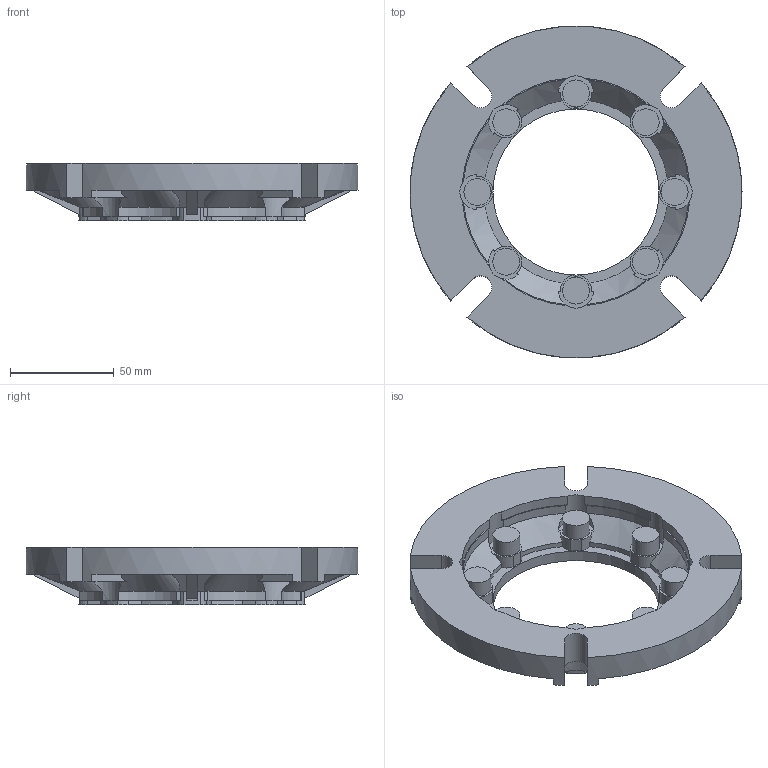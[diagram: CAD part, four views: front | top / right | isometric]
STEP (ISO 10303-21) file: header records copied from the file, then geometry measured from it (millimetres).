
FILE_DESCRIPTION(/* description */ (''),/* implementation_level */ '2;1');
FILE_NAME(/* name */ '2_FLANGIA (CAMPANA) LATERALE FE NMRV-P063',/* time_stamp */ '2025-10-09T14:53:33+02:00',/* author */ (''),/* organization */ (''),/* preprocessor_version */ 'ST-DEVELOPER v19.2',/* originating_system */ 'Rhino 8.23',/* authorisation */ '');
FILE_SCHEMA (('CONFIG_CONTROL_DESIGN'));
Length unit declared in the file: millimetre
Products named in the file (2): Document; FU 63FE-p
Bounding box: 160 x 160 x 27.5 mm (x, y, z)
Volume: 185994.3 mm3; surface area: 52805.6 mm2
Topology: 1 solids, 1 shells, 259 faces, 726 edges, 478 vertices
Faces by surface type: cylinder 138, plane 97, bspline 24
Entity records: 11752 total; most frequent: CARTESIAN_POINT 3155, ORIENTED_EDGE 1452, DIRECTION 971, EDGE_CURVE 726, AXIS2_PLACEMENT_3D 603, VERTEX_POINT 478, TRIMMED_CURVE 364, CIRCLE 364
